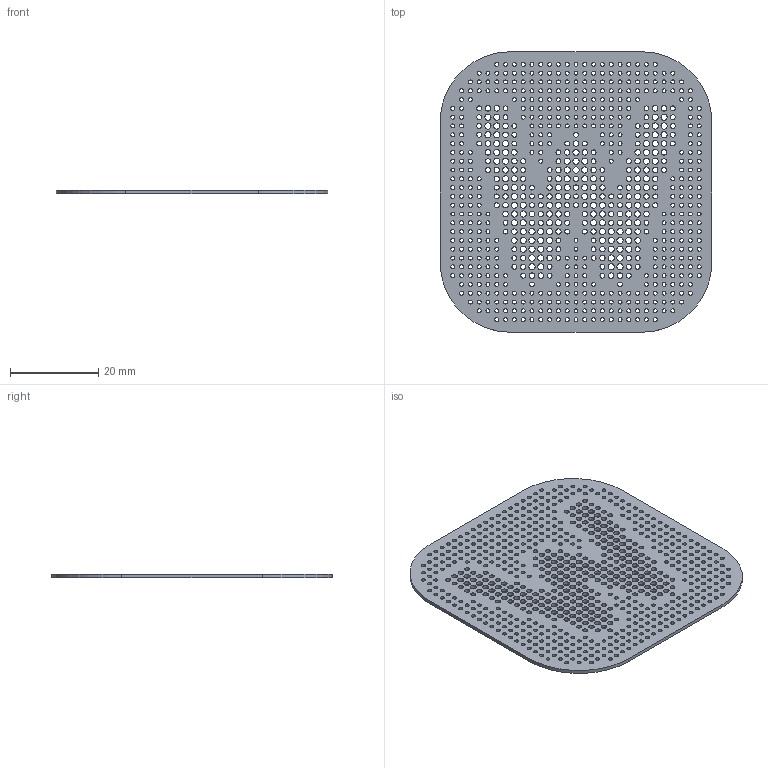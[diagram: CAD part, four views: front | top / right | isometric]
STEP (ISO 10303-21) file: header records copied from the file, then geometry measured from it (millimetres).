
FILE_DESCRIPTION(('Open CASCADE Model'),'2;1');
FILE_NAME('Open CASCADE Shape Model','2026-09-08T13:27:13',('Author'),( 'Open CASCADE'),'Open CASCADE STEP processor 7.7','Open CASCADE 7.7' ,'Unknown');
FILE_SCHEMA(('AUTOMOTIVE_DESIGN { 1 0 10303 214 1 1 1 1 }'));
Products named in the file (1): Open CASCADE STEP translator 7.7 1
Bounding box: 61.7 x 63.7 x 0.8 mm (x, y, z)
Volume: 2468.7 mm3; surface area: 8227.9 mm2
Topology: 1 solids, 1 shells, 731 faces, 2187 edges, 1458 vertices
Faces by surface type: cylinder 725, plane 6
Full cylindrical faces by diameter (mm): 0.9 x452, 1.1 x85, 1.25 x73, 1.4 x111
Entity records: 59019 total; most frequent: CARTESIAN_POINT 13077, DIRECTION 8754, ORIENTED_EDGE 4374, PCURVE 4374, DEFINITIONAL_REPRESENTATION 4374, LINE 3661, VECTOR 3661, EDGE_CURVE 2187
